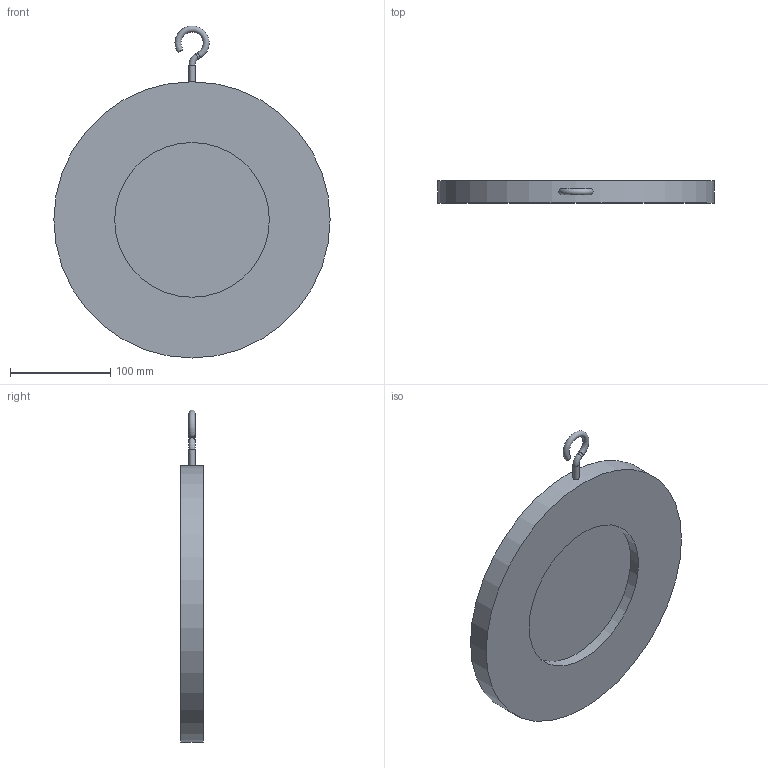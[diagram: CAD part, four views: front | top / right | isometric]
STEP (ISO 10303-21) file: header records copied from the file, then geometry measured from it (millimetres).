
FILE_DESCRIPTION(('STEP AP203'), '1');
FILE_NAME('孰囡囗 钺疣蝽 钿眍耱忸瘅囹 戾骠豚眦邂 008C DN200', '', ('UNSPECIFIED'), ('UNSPECIFIED'), 'ASCON STEP Converter 1.6', 'ASCON Math Kernel', '');
FILE_SCHEMA(('CONFIG_CONTROL_DESIGN'));
Length unit declared in the file: millimetre
Bounding box: 275 x 22 x 330.48 mm (x, y, z)
Volume: 940783.6 mm3; surface area: 153963.8 mm2
Topology: 1 solids, 1 shells, 15 faces, 30 edges, 19 vertices
Faces by surface type: plane 7, cylinder 5, torus 2, cone 1
Full cylindrical faces by diameter (mm): 6 x2, 154 x1, 275 x1
Entity records: 754 total; most frequent: CARTESIAN_POINT 310, DIRECTION 62, ORIENTED_EDGE 46, AXIS2_PLACEMENT_3D 28, EDGE_LOOP 24, EDGE_CURVE 23, VERTEX_POINT 19, COLOUR_RGB 16
